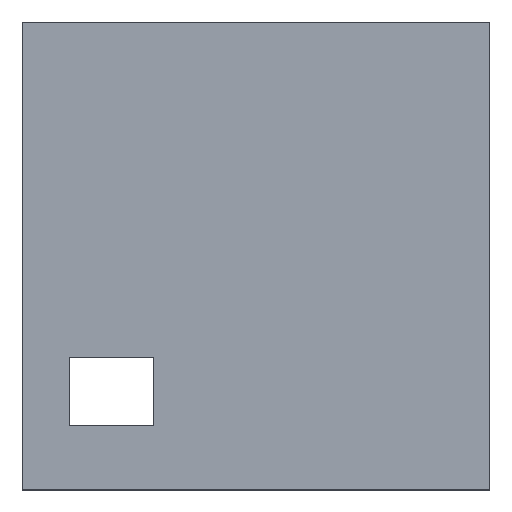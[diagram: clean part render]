
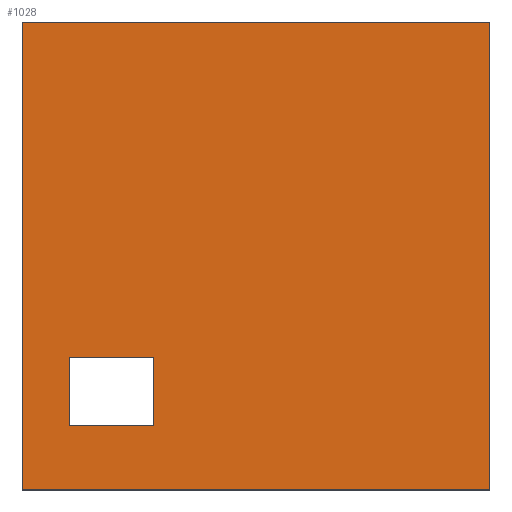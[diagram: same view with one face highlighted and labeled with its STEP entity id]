
A CAD part, top view. The second image highlights one B-rep face of the part: STEP entity #1028.
In plain terms, the highlighted planar face has unit normal (0, 0, 1).
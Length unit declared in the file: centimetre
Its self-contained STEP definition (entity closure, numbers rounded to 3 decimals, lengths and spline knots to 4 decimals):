
#5 = ORIENTED_EDGE ( 'NONE', *, *, #1370, .T. ) ;
#21 = LINE ( 'NONE', #1002, #1189 ) ;
#161 = CARTESIAN_POINT ( 'NONE',  ( 100.404, 136.7033, 1000. ) ) ;
#179 = AXIS2_PLACEMENT_3D ( 'NONE', #703, #222, #1450 ) ;
#188 = EDGE_CURVE ( 'NONE', #410, #1005, #1110, .T. ) ;
#200 = ORIENTED_EDGE ( 'NONE', *, *, #754, .T. ) ;
#220 = CARTESIAN_POINT ( 'NONE',  ( 0., 1000., 1000. ) ) ;
#222 = DIRECTION ( 'NONE',  ( 0., 0., 1. ) ) ;
#236 = ORIENTED_EDGE ( 'NONE', *, *, #418, .T. ) ;
#293 = CARTESIAN_POINT ( 'NONE',  ( 0., 1000., 1000. ) ) ;
#346 = VECTOR ( 'NONE', #1195, 100. ) ;
#357 = VERTEX_POINT ( 'NONE', #293 ) ;
#368 = VERTEX_POINT ( 'NONE', #691 ) ;
#393 = CARTESIAN_POINT ( 'NONE',  ( 0., 1000., 1000. ) ) ;
#404 = DIRECTION ( 'NONE',  ( 1., 0., 0. ) ) ;
#410 = VERTEX_POINT ( 'NONE', #482 ) ;
#418 = EDGE_CURVE ( 'NONE', #1151, #991, #614, .T. ) ;
#454 = VECTOR ( 'NONE', #1060, 100. ) ;
#482 = CARTESIAN_POINT ( 'NONE',  ( 1000., 0., 1000. ) ) ;
#503 = LINE ( 'NONE', #220, #454 ) ;
#529 = LINE ( 'NONE', #645, #810 ) ;
#534 = VECTOR ( 'NONE', #974, 100. ) ;
#552 = VECTOR ( 'NONE', #735, 100. ) ;
#584 = LINE ( 'NONE', #828, #346 ) ;
#587 = VERTEX_POINT ( 'NONE', #669 ) ;
#596 = CARTESIAN_POINT ( 'NONE',  ( 100.404, 136.7033, 1000. ) ) ;
#612 = CARTESIAN_POINT ( 'NONE',  ( 280.3764, 136.7033, 1000. ) ) ;
#614 = LINE ( 'NONE', #596, #552 ) ;
#645 = CARTESIAN_POINT ( 'NONE',  ( 0., 0., 1000. ) ) ;
#669 = CARTESIAN_POINT ( 'NONE',  ( 280.3764, 282.6571, 1000. ) ) ;
#691 = CARTESIAN_POINT ( 'NONE',  ( 0., 0., 1000. ) ) ;
#703 = CARTESIAN_POINT ( 'NONE',  ( 0., 0., 1000. ) ) ;
#735 = DIRECTION ( 'NONE',  ( 0., 1., 0. ) ) ;
#745 = DIRECTION ( 'NONE',  ( 0., -1., 0. ) ) ;
#751 = LINE ( 'NONE', #393, #960 ) ;
#754 = EDGE_CURVE ( 'NONE', #991, #587, #21, .T. ) ;
#810 = VECTOR ( 'NONE', #1486, 100. ) ;
#820 = ORIENTED_EDGE ( 'NONE', *, *, #1392, .T. ) ;
#822 = PLANE ( 'NONE',  #179 ) ;
#828 = CARTESIAN_POINT ( 'NONE',  ( 100.404, 136.7033, 1000. ) ) ;
#834 = CARTESIAN_POINT ( 'NONE',  ( 1000., 1000., 1000. ) ) ;
#858 = CARTESIAN_POINT ( 'NONE',  ( 1000., 1000., 1000. ) ) ;
#960 = VECTOR ( 'NONE', #745, 100. ) ;
#974 = DIRECTION ( 'NONE',  ( 0., -1., 0. ) ) ;
#991 = VERTEX_POINT ( 'NONE', #1336 ) ;
#1002 = CARTESIAN_POINT ( 'NONE',  ( 100.404, 282.6571, 1000. ) ) ;
#1005 = VERTEX_POINT ( 'NONE', #834 ) ;
#1020 = EDGE_CURVE ( 'NONE', #587, #1052, #1071, .T. ) ;
#1028 = ADVANCED_FACE ( 'NONE', ( #1561, #1468 ), #822, .T. ) ;
#1052 = VERTEX_POINT ( 'NONE', #1196 ) ;
#1060 = DIRECTION ( 'NONE',  ( -1., 0., 0. ) ) ;
#1071 = LINE ( 'NONE', #612, #534 ) ;
#1090 = DIRECTION ( 'NONE',  ( 0., 1., 0. ) ) ;
#1110 = LINE ( 'NONE', #858, #1208 ) ;
#1130 = EDGE_CURVE ( 'NONE', #357, #368, #751, .T. ) ;
#1151 = VERTEX_POINT ( 'NONE', #161 ) ;
#1167 = EDGE_CURVE ( 'NONE', #368, #410, #529, .T. ) ;
#1189 = VECTOR ( 'NONE', #404, 100. ) ;
#1195 = DIRECTION ( 'NONE',  ( -1., 0., 0. ) ) ;
#1196 = CARTESIAN_POINT ( 'NONE',  ( 280.3764, 136.7033, 1000. ) ) ;
#1208 = VECTOR ( 'NONE', #1090, 100. ) ;
#1228 = EDGE_LOOP ( 'NONE', ( #236, #200, #1528, #5 ) ) ;
#1336 = CARTESIAN_POINT ( 'NONE',  ( 100.404, 282.6571, 1000. ) ) ;
#1356 = EDGE_LOOP ( 'NONE', ( #1461, #1366, #1429, #820 ) ) ;
#1366 = ORIENTED_EDGE ( 'NONE', *, *, #1167, .T. ) ;
#1370 = EDGE_CURVE ( 'NONE', #1052, #1151, #584, .T. ) ;
#1392 = EDGE_CURVE ( 'NONE', #1005, #357, #503, .T. ) ;
#1429 = ORIENTED_EDGE ( 'NONE', *, *, #188, .T. ) ;
#1450 = DIRECTION ( 'NONE',  ( 1., 0., 0. ) ) ;
#1461 = ORIENTED_EDGE ( 'NONE', *, *, #1130, .T. ) ;
#1468 = FACE_OUTER_BOUND ( 'NONE', #1356, .T. ) ;
#1486 = DIRECTION ( 'NONE',  ( 1., 0., 0. ) ) ;
#1528 = ORIENTED_EDGE ( 'NONE', *, *, #1020, .T. ) ;
#1561 = FACE_BOUND ( 'NONE', #1228, .T. ) ;
